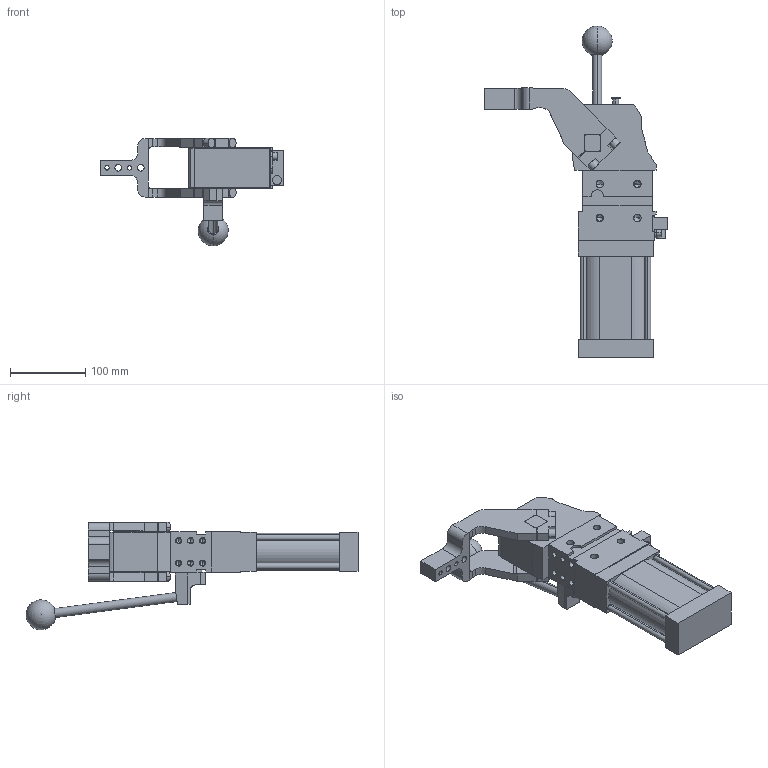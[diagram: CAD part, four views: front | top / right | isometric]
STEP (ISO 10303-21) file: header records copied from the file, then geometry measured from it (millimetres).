
FILE_DESCRIPTION (( 'STEP AP214' ), '1' );
FILE_NAME ('cplm63lbv3ci1g_135.STEP', '2023-01-26T14:55:35', ( '' ), ( '' ), 'SwSTEP 2.0', 'SolidWorks 2022', '' );
FILE_SCHEMA (( 'AUTOMOTIVE_DESIGN' ));
Length unit declared in the file: millimetre
Products named in the file (5): meccanica_cplm_63; blocchetto_VEP_0; cplm63lbv3ci1g_135; leva_cx_offset_45_cpl63; comando_manuale_cplm_63
Assembly tree (4 placements, depth 2):
  cplm63lbv3ci1g_135
    meccanica_cplm_63
    blocchetto_VEP_0
    leva_cx_offset_45_cpl63
    comando_manuale_cplm_63
Bounding box: 244.5 x 442.23 x 143.5 mm (x, y, z)
Volume: 1879230.1 mm3; surface area: 210274.1 mm2
Topology: 4 solids, 4 shells, 432 faces, 1134 edges, 703 vertices
Faces by surface type: plane 219, cylinder 161, cone 50, sphere 2
Entity records: 14579 total; most frequent: DIRECTION 2315, CARTESIAN_POINT 2298, ORIENTED_EDGE 2166, EDGE_CURVE 1083, AXIS2_PLACEMENT_3D 799, VECTOR 717, LINE 717, VERTEX_POINT 700
